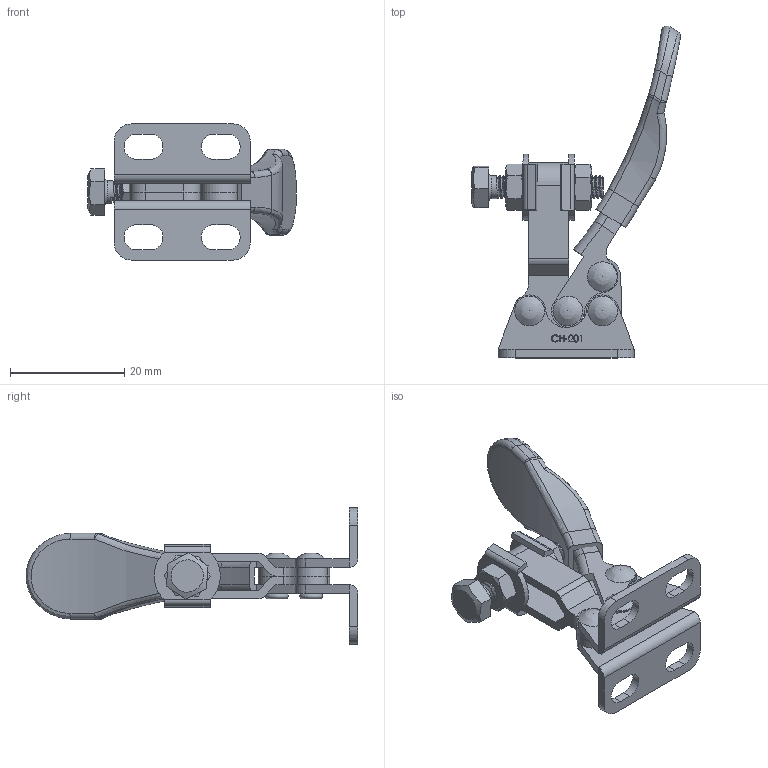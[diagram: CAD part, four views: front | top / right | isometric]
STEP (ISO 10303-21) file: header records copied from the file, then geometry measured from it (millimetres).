
FILE_DESCRIPTION(/* description */ ('STEP AP203'),/* implementation_level */ '2;1');
FILE_NAME(/* name */ 'E:\STRONA\Horizontal toggle clamp\CH-201\CH-201_OTWARTY.stp',/* time_stamp */ '2019-01-15T11:54:16+01:00',/* author */ ('Admin'),/* organization */ ('Î¢ÈíÖÐ¹ú'),/* preprocessor_version */ 'ST-DEVELOPER v17.2',/* originating_system */ 'Autodesk Inventor 2019',/* authorisation */ '');
FILE_SCHEMA (('AUTOMOTIVE_DESIGN { 1 0 10303 214 3 1 1 }'));
Products named in the file (11): CH-201_OTWARTY; CH-201-02 U-BAR; CH-201-03 HANDLE; CH-201-A-03; CH-201-A-05; CH-SA-042007 SPINDLE SUPPLIED; CH-201-01 FLANGED BASE; M4 Nut; CH-201-A-04; CH-FW-080; CH-201-A-06
Assembly tree (16 placements, depth 3):
  CH-201_OTWARTY
    CH-201-02 U-BAR
    CH-FW-080  x2
    CH-201-A-06  x4
    CH-201-A-04  x2
    CH-201-03 HANDLE
      CH-201-A-03
      CH-201-A-05
    M4 Nut  x2
    CH-SA-042007 SPINDLE SUPPLIED
    CH-201-01 FLANGED BASE
Bounding box: 36.54 x 58.03 x 23.8 mm (x, y, z)
Volume: 4579.9 mm3; surface area: 8645.4 mm2
Topology: 17 solids, 17 shells, 631 faces, 1727 edges, 1151 vertices
Faces by surface type: plane 267, bspline 180, cylinder 145, torus 19, cone 14, sphere 6
Full cylindrical faces by diameter (mm): 0.514 x1, 0.586 x1, 2.4 x4, 3 x20, 3.2 x4, 4 x26, 4.3 x2
Entity records: 41121 total; most frequent: CARTESIAN_POINT 27351, ORIENTED_EDGE 3112, DIRECTION 2214, EDGE_CURVE 1556, VERTEX_POINT 1038, LINE 820, VECTOR 820, AXIS2_PLACEMENT_3D 697
